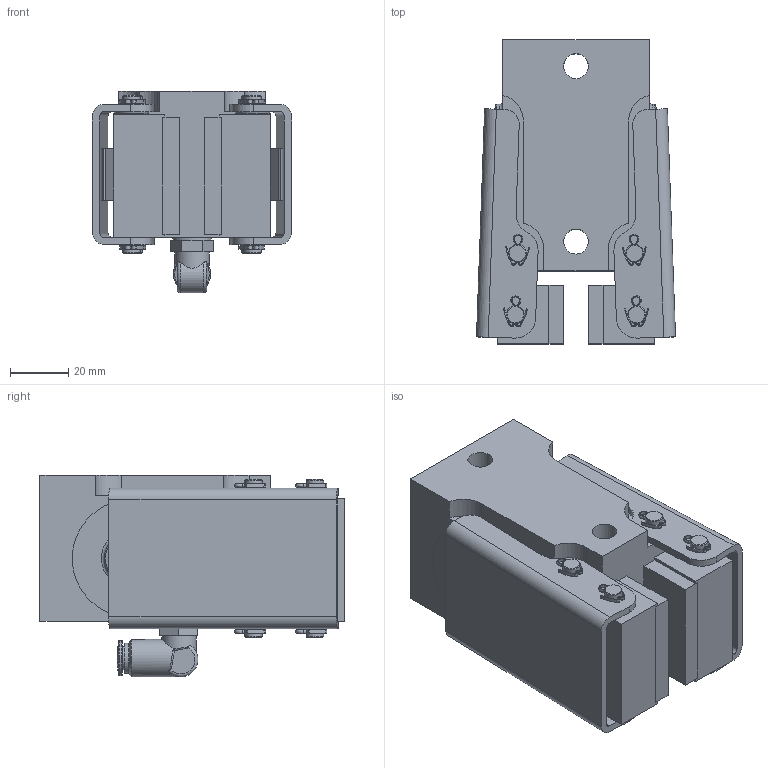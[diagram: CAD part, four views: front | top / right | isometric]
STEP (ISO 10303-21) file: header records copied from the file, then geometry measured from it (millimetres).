
FILE_DESCRIPTION(/* description */ ('','CAx-IF Rec.Pracs.---Representation and Presentation of Product Manufacturing Information (PMI)---4.0---2014-10-13'),/* implementation_level */ '2;1');
FILE_NAME(/* name */ 'X:\INVENTOR\DISEGNI\19_Pinze\STEP x Sito\PNEUM-POSITIVE\19_16_C02_02 PPC C02_08.stp',/* time_stamp */ '2018-02-16T16:38:28+01:00',/* author */ ('stefano'),/* organization */ (''),/* preprocessor_version */ 'ST-DEVELOPER v17',/* originating_system */ 'Autodesk Inventor 2018',/* authorisation */ '');
FILE_SCHEMA (('AP242_MANAGED_MODEL_BASED_3D_ENGINEERING_MIM_LF { 1 0 10303 442 1 1 4 }'));
Length unit declared in the file: millimetre
Products named in the file (1): 19_16_C02_02 PPC C02_08_Substitute_3
Bounding box: 68.05 x 103.99 x 69 mm (x, y, z)
Volume: 246428.9 mm3; surface area: 69217.8 mm2
Topology: 7 solids, 7 shells, 470 faces, 1410 edges, 948 vertices
Faces by surface type: plane 180, cylinder 147, bspline 101, cone 32, torus 8, sphere 2
Full cylindrical faces by diameter (mm): 1.5 x8, 3.242 x3, 4.5 x2, 5.5 x1, 6 x7, 6.1 x10, 6.46 x1, 8 x2, 8.5 x2, 8.566 x1, 10.2 x1, 11.8 x1, 12 x1, 12.8 x1, 13 x1, 18 x2, 20 x1, 25 x1, 34 x1
Entity records: 22024 total; most frequent: CARTESIAN_POINT 9195, ORIENTED_EDGE 2812, DIRECTION 2532, EDGE_CURVE 1406, AXIS2_PLACEMENT_3D 972, VERTEX_POINT 948, CIRCLE 591, LINE 588
